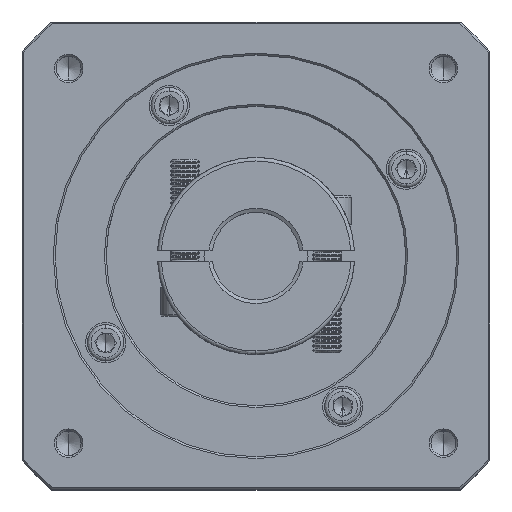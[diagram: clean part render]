
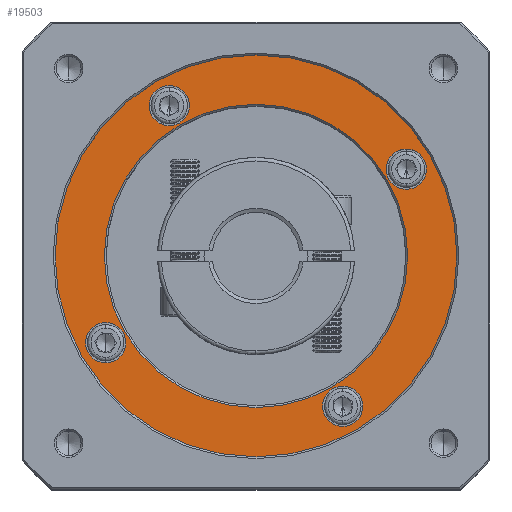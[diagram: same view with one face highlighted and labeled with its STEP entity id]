
A CAD part, top view. The second image highlights one B-rep face of the part: STEP entity #19503.
In plain terms, the highlighted planar face has unit normal (0, 0, 1).
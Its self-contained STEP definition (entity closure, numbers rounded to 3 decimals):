
#5389 = CARTESIAN_POINT ( 'NONE',  ( 83.514, 81.511, 51.74 ) ) ;
#5848 = CIRCLE ( 'NONE', #41065, 5.5 ) ;
#7623 = CARTESIAN_POINT ( 'NONE',  ( 42.378, 63.261, 51.74 ) ) ;
#8138 = DIRECTION ( 'NONE',  ( 0., 0., -1. ) ) ;
#8940 = CARTESIAN_POINT ( 'NONE',  ( 124.65, 99.761, 51.74 ) ) ;
#9484 = AXIS2_PLACEMENT_3D ( 'NONE', #120812, #80017, #110126 ) ;
#10680 = CARTESIAN_POINT ( 'NONE',  ( 107.264, 34.875, 51.74 ) ) ;
#11873 = DIRECTION ( 'NONE',  ( 0., -1., 0. ) ) ;
#11960 = CIRCLE ( 'NONE', #70466, 5.5 ) ;
#13431 = CARTESIAN_POINT ( 'NONE',  ( 124.65, 105.261, 51.74 ) ) ;
#13903 = CIRCLE ( 'NONE', #38057, 5.5 ) ;
#16057 = ORIENTED_EDGE ( 'NONE', *, *, #83698, .T. ) ;
#16496 = CIRCLE ( 'NONE', #30621, 5.5 ) ;
#17384 = DIRECTION ( 'NONE',  ( 0., 0., 1. ) ) ;
#18264 = CARTESIAN_POINT ( 'NONE',  ( 83.514, 81.511, 51.74 ) ) ;
#18734 = DIRECTION ( 'NONE',  ( 0., -1., 0. ) ) ;
#18878 = VERTEX_POINT ( 'NONE', #123101 ) ;
#19503 = ADVANCED_FACE ( 'NONE', ( #40840, #87298, #64922, #85758, #32755, #119452 ), #123124, .T. ) ;
#20153 = VERTEX_POINT ( 'NONE', #63285 ) ;
#20679 = EDGE_CURVE ( 'NONE', #74665, #116093, #116441, .T. ) ;
#25071 = EDGE_CURVE ( 'NONE', #18878, #74445, #106709, .T. ) ;
#26037 = ORIENTED_EDGE ( 'NONE', *, *, #25071, .T. ) ;
#26872 = VERTEX_POINT ( 'NONE', #125821 ) ;
#28204 = AXIS2_PLACEMENT_3D ( 'NONE', #18264, #17384, #49132 ) ;
#28791 = CARTESIAN_POINT ( 'NONE',  ( 42.014, 81.511, 51.74 ) ) ;
#29444 = DIRECTION ( 'NONE',  ( 0., 0., 1. ) ) ;
#30621 = AXIS2_PLACEMENT_3D ( 'NONE', #67206, #129346, #99861 ) ;
#32436 = CARTESIAN_POINT ( 'NONE',  ( 107.264, 40.375, 51.74 ) ) ;
#32755 = FACE_BOUND ( 'NONE', #46597, .T. ) ;
#38057 = AXIS2_PLACEMENT_3D ( 'NONE', #13431, #54110, #125843 ) ;
#38284 = EDGE_CURVE ( 'NONE', #26872, #20153, #49961, .T. ) ;
#39732 = AXIS2_PLACEMENT_3D ( 'NONE', #61631, #29444, #18734 ) ;
#39788 = CIRCLE ( 'NONE', #28204, 55. ) ;
#40840 = FACE_OUTER_BOUND ( 'NONE', #107719, .T. ) ;
#41065 = AXIS2_PLACEMENT_3D ( 'NONE', #68174, #119762, #130019 ) ;
#42082 = CARTESIAN_POINT ( 'NONE',  ( 125.014, 81.511, 51.74 ) ) ;
#44863 = CIRCLE ( 'NONE', #120147, 5.5 ) ;
#46597 = EDGE_LOOP ( 'NONE', ( #80625, #124720 ) ) ;
#49132 = DIRECTION ( 'NONE',  ( 0., -1., 0. ) ) ;
#49813 = DIRECTION ( 'NONE',  ( 0., -1., 0. ) ) ;
#49961 = CIRCLE ( 'NONE', #96148, 5.5 ) ;
#50254 = CARTESIAN_POINT ( 'NONE',  ( 107.264, 40.375, 51.74 ) ) ;
#50265 = CIRCLE ( 'NONE', #59199, 5.5 ) ;
#51136 = DIRECTION ( 'NONE',  ( 0., -1., 0. ) ) ;
#52113 = ORIENTED_EDGE ( 'NONE', *, *, #100825, .T. ) ;
#54110 = DIRECTION ( 'NONE',  ( 0., 0., -1. ) ) ;
#54258 = DIRECTION ( 'NONE',  ( 0., -1., 0. ) ) ;
#55139 = CARTESIAN_POINT ( 'NONE',  ( 59.764, 122.648, 51.74 ) ) ;
#57932 = EDGE_CURVE ( 'NONE', #95306, #115742, #67321, .T. ) ;
#59199 = AXIS2_PLACEMENT_3D ( 'NONE', #32436, #62435, #104297 ) ;
#59819 = CARTESIAN_POINT ( 'NONE',  ( 83.514, 26.511, 51.74 ) ) ;
#61222 = CIRCLE ( 'NONE', #129371, 41.5 ) ;
#61631 = CARTESIAN_POINT ( 'NONE',  ( 83.514, 81.511, 51.74 ) ) ;
#62361 = CARTESIAN_POINT ( 'NONE',  ( 59.764, 122.648, 51.74 ) ) ;
#62435 = DIRECTION ( 'NONE',  ( 0., 0., -1. ) ) ;
#62517 = ORIENTED_EDGE ( 'NONE', *, *, #66051, .T. ) ;
#62633 = ORIENTED_EDGE ( 'NONE', *, *, #20679, .T. ) ;
#63285 = CARTESIAN_POINT ( 'NONE',  ( 59.764, 117.148, 51.74 ) ) ;
#63610 = CARTESIAN_POINT ( 'NONE',  ( 124.65, 110.761, 51.74 ) ) ;
#64922 = FACE_BOUND ( 'NONE', #113033, .T. ) ;
#65314 = VERTEX_POINT ( 'NONE', #103879 ) ;
#66051 = EDGE_CURVE ( 'NONE', #132796, #107165, #16496, .T. ) ;
#66228 = AXIS2_PLACEMENT_3D ( 'NONE', #5389, #77411, #108001 ) ;
#67206 = CARTESIAN_POINT ( 'NONE',  ( 124.65, 105.261, 51.74 ) ) ;
#67321 = CIRCLE ( 'NONE', #9484, 41.5 ) ;
#68174 = CARTESIAN_POINT ( 'NONE',  ( 42.378, 57.761, 51.74 ) ) ;
#68181 = ORIENTED_EDGE ( 'NONE', *, *, #68477, .T. ) ;
#68477 = EDGE_CURVE ( 'NONE', #116093, #74665, #50265, .T. ) ;
#70466 = AXIS2_PLACEMENT_3D ( 'NONE', #70891, #91541, #49813 ) ;
#70891 = CARTESIAN_POINT ( 'NONE',  ( 42.378, 57.761, 51.74 ) ) ;
#74445 = VERTEX_POINT ( 'NONE', #59819 ) ;
#74489 = DIRECTION ( 'NONE',  ( 0., 0., -1. ) ) ;
#74665 = VERTEX_POINT ( 'NONE', #10680 ) ;
#76982 = CARTESIAN_POINT ( 'NONE',  ( 107.264, 45.875, 51.74 ) ) ;
#77295 = ORIENTED_EDGE ( 'NONE', *, *, #116144, .T. ) ;
#77411 = DIRECTION ( 'NONE',  ( 0., 0., 1. ) ) ;
#77925 = EDGE_LOOP ( 'NONE', ( #52113, #84346 ) ) ;
#78435 = EDGE_CURVE ( 'NONE', #108940, #65314, #5848, .T. ) ;
#79079 = EDGE_LOOP ( 'NONE', ( #62517, #109932 ) ) ;
#80017 = DIRECTION ( 'NONE',  ( 0., 0., -1. ) ) ;
#80625 = ORIENTED_EDGE ( 'NONE', *, *, #95268, .T. ) ;
#83698 = EDGE_CURVE ( 'NONE', #115742, #95306, #61222, .T. ) ;
#84346 = ORIENTED_EDGE ( 'NONE', *, *, #38284, .T. ) ;
#85758 = FACE_BOUND ( 'NONE', #79079, .T. ) ;
#87298 = FACE_BOUND ( 'NONE', #121528, .T. ) ;
#91541 = DIRECTION ( 'NONE',  ( 0., 0., -1. ) ) ;
#92486 = DIRECTION ( 'NONE',  ( 0., 0., -1. ) ) ;
#95268 = EDGE_CURVE ( 'NONE', #65314, #108940, #11960, .T. ) ;
#95306 = VERTEX_POINT ( 'NONE', #28791 ) ;
#96148 = AXIS2_PLACEMENT_3D ( 'NONE', #55139, #74489, #54258 ) ;
#99861 = DIRECTION ( 'NONE',  ( 0., -1., 0. ) ) ;
#100012 = DIRECTION ( 'NONE',  ( -1., 0., 0. ) ) ;
#100825 = EDGE_CURVE ( 'NONE', #20153, #26872, #44863, .T. ) ;
#103879 = CARTESIAN_POINT ( 'NONE',  ( 42.378, 52.261, 51.74 ) ) ;
#104297 = DIRECTION ( 'NONE',  ( 0., -1., 0. ) ) ;
#106365 = ORIENTED_EDGE ( 'NONE', *, *, #57932, .T. ) ;
#106709 = CIRCLE ( 'NONE', #66228, 55. ) ;
#107165 = VERTEX_POINT ( 'NONE', #63610 ) ;
#107719 = EDGE_LOOP ( 'NONE', ( #77295, #26037 ) ) ;
#108001 = DIRECTION ( 'NONE',  ( 0., -1., 0. ) ) ;
#108940 = VERTEX_POINT ( 'NONE', #7623 ) ;
#109932 = ORIENTED_EDGE ( 'NONE', *, *, #112858, .T. ) ;
#110126 = DIRECTION ( 'NONE',  ( -1., 0., 0. ) ) ;
#112858 = EDGE_CURVE ( 'NONE', #107165, #132796, #13903, .T. ) ;
#113033 = EDGE_LOOP ( 'NONE', ( #62633, #68181 ) ) ;
#115742 = VERTEX_POINT ( 'NONE', #42082 ) ;
#116093 = VERTEX_POINT ( 'NONE', #76982 ) ;
#116144 = EDGE_CURVE ( 'NONE', #74445, #18878, #39788, .T. ) ;
#116441 = CIRCLE ( 'NONE', #120629, 5.5 ) ;
#119452 = FACE_BOUND ( 'NONE', #77925, .T. ) ;
#119762 = DIRECTION ( 'NONE',  ( 0., 0., -1. ) ) ;
#120147 = AXIS2_PLACEMENT_3D ( 'NONE', #62361, #92486, #11873 ) ;
#120629 = AXIS2_PLACEMENT_3D ( 'NONE', #50254, #122899, #51136 ) ;
#120812 = CARTESIAN_POINT ( 'NONE',  ( 83.514, 81.511, 51.74 ) ) ;
#121528 = EDGE_LOOP ( 'NONE', ( #106365, #16057 ) ) ;
#122899 = DIRECTION ( 'NONE',  ( 0., 0., -1. ) ) ;
#123101 = CARTESIAN_POINT ( 'NONE',  ( 83.514, 136.511, 51.74 ) ) ;
#123124 = PLANE ( 'NONE',  #39732 ) ;
#124720 = ORIENTED_EDGE ( 'NONE', *, *, #78435, .T. ) ;
#125821 = CARTESIAN_POINT ( 'NONE',  ( 59.764, 128.148, 51.74 ) ) ;
#125843 = DIRECTION ( 'NONE',  ( 0., -1., 0. ) ) ;
#129346 = DIRECTION ( 'NONE',  ( 0., 0., -1. ) ) ;
#129371 = AXIS2_PLACEMENT_3D ( 'NONE', #130366, #8138, #100012 ) ;
#130019 = DIRECTION ( 'NONE',  ( 0., -1., 0. ) ) ;
#130366 = CARTESIAN_POINT ( 'NONE',  ( 83.514, 81.511, 51.74 ) ) ;
#132796 = VERTEX_POINT ( 'NONE', #8940 ) ;
